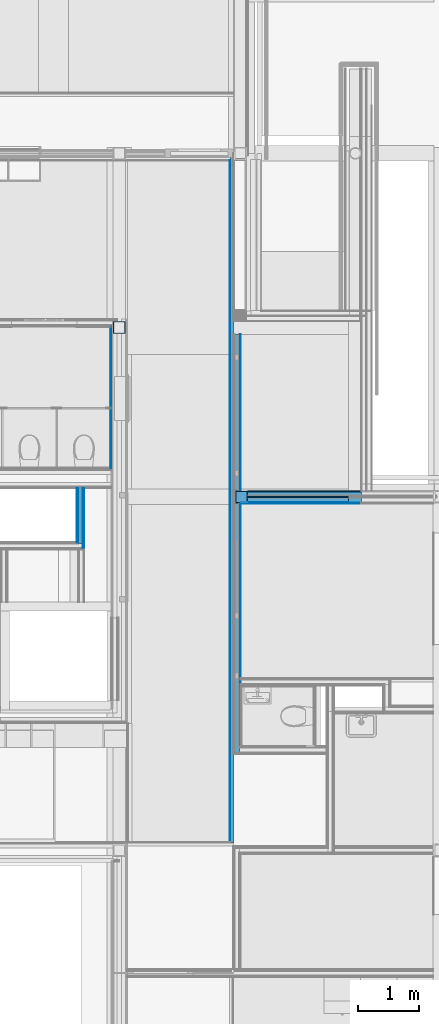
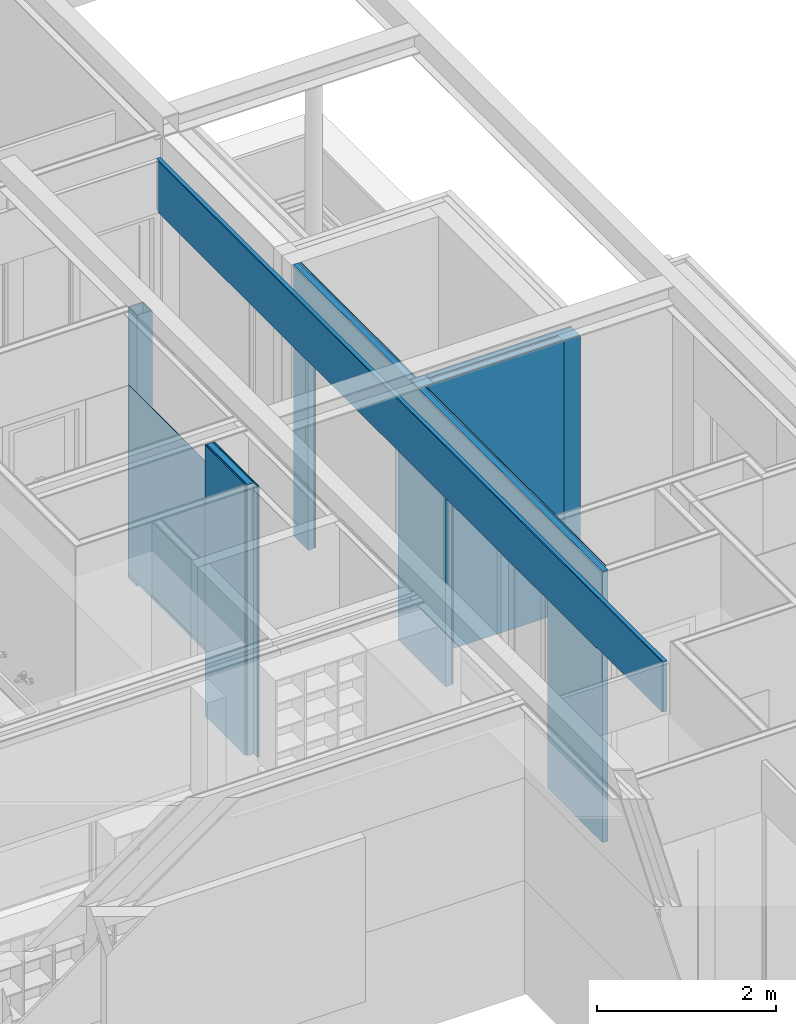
# One storey, part 87 of 137: 22 building element parts, 3 openings, 8 elements without a shape of their own.
"""IFC2X3 building model written with IfcOpenShell, lengths in millimetres."""

from ifc_helpers import new_model, entity, si_unit, converted_unit, derived_unit, money_unit, direction, frame, origin_with_axes, place, context, subcontext, project, spatial, faceted_brep, material, type_object, element, aggregate, save


model = new_model("IFC2X3")

# Units and contexts
model_context = context("Model", 3, precision=0.01, world=origin_with_axes(), true_north=direction((0.0, 1.0)))
body_context = subcontext(model_context, "Body", "Model", "MODEL_VIEW")
ifc_project = project(units=[si_unit("LENGTHUNIT", "METRE", prefix="MILLI"), si_unit("AREAUNIT", "SQUARE_METRE"), si_unit("VOLUMEUNIT", "CUBIC_METRE"), converted_unit("PLANEANGLEUNIT", "DEGREE", entity("IfcPlaneAngleMeasure", 0.0174532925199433), si_unit("PLANEANGLEUNIT", "RADIAN"), dimensions=[0, 0, 0, 0, 0, 0, 0]), money_unit("EUR"), converted_unit("TIMEUNIT", "Year", entity("IfcTimeMeasure", 31556926.0), si_unit("TIMEUNIT", "SECOND"), dimensions=[0, 0, 1, 0, 0, 0, 0]), si_unit("MASSUNIT", "GRAM", prefix="KILO"), si_unit("THERMODYNAMICTEMPERATUREUNIT", "DEGREE_CELSIUS"), si_unit("LUMINOUSINTENSITYUNIT", "LUMEN"), si_unit("ENERGYUNIT", "JOULE", prefix="MEGA"), derived_unit("THERMALCONDUCTANCEUNIT", [(si_unit("POWERUNIT", "WATT"), 1), (si_unit("LENGTHUNIT", "METRE"), -1), (si_unit("THERMODYNAMICTEMPERATUREUNIT", "KELVIN"), -1)]), derived_unit("SPECIFICHEATCAPACITYUNIT", [(si_unit("ENERGYUNIT", "JOULE"), 1), (si_unit("MASSUNIT", "GRAM", prefix="KILO"), -1), (si_unit("THERMODYNAMICTEMPERATUREUNIT", "KELVIN"), -1)]), derived_unit("MASSDENSITYUNIT", [(si_unit("MASSUNIT", "GRAM", prefix="KILO"), 1), (si_unit("VOLUMEUNIT", "CUBIC_METRE"), -1)])], contexts=[model_context])

# Site, building, storey
site_placement = place(None, origin_with_axes())
site = spatial("IfcSite", under=ifc_project, at=site_placement, Name="Site", CompositionType="ELEMENT")
building_placement = place(site_placement, origin_with_axes())
building = spatial("IfcBuilding", under=site, at=building_placement, Name="Naam gebouw", CompositionType="ELEMENT")
storey_placement = place(building_placement, frame((0.0, 0.0, 3960.0), z_axis=(0.0, 0.0, 1.0), x_axis=(1.0, 0.0, 0.0)))
storey = spatial("IfcBuildingStorey", under=building, at=storey_placement, Name="1e verdieping", CompositionType="ELEMENT", Elevation=3960.0)

# Proxy, openings, building element parts
building_element_proxy_type_1 = type_object("IfcBuildingElementProxyType", Name="22 Metal stud 125 oregon pine 125", PredefinedType="NOTDEFINED")
proxy_1_placement = place(storey_placement, frame((26386.00000000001, 19336.00039292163, -100.0000000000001), z_axis=(0.0, 0.0, 1.0), x_axis=(0.0, -1.0, 0.0)))
proxy_1 = element("IfcBuildingElementProxy", 1, at=proxy_1_placement, inside=storey, type_object=building_element_proxy_type_1, Name="_Wand-x")
opening_1_placement = place(proxy_1_placement, frame((4006.002611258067, 0.0, 100.0000000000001), z_axis=(0.0, 0.0, 1.0), x_axis=(1.0, 0.0, 0.0)))
element("IfcOpeningElement", 2, at=opening_1_placement, cuts=proxy_1, Name="_B.01", context=body_context, shape_type="Brep", body=[
    faceted_brep([(600.0000000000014, 50.00000000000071, 2600.0), (-600.0000000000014, 50.00000000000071, 2600.0), (-600.0000000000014, -1.000000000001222, 2600.0), (600.0000000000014, -1.000000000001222, 2600.0), (600.0000000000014, 126.0000000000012, 2600.0), (-600.0000000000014, 126.0000000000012, 2600.0), (-600.0000000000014, 50.00000000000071, -100.0000000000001), (-600.0000000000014, -1.000000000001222, -100.0000000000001), (600.0000000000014, -1.000000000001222, -100.0000000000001), (600.0000000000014, 50.00000000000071, -100.0000000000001), (600.0000000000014, 126.0000000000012, -100.0000000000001), (-600.0000000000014, 126.0000000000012, -100.0000000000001)], [[[0, 1, 2, 3]], [[1, 0, 4, 5]], [[1, 6, 7, 2]], [[2, 7, 8, 3]], [[9, 0, 3, 8]], [[0, 9, 10, 4]], [[4, 10, 11, 5]], [[6, 1, 5, 11]], [[6, 9, 8, 7]], [[9, 6, 11, 10]]]),
])
opening_2_placement = place(proxy_1_placement, frame((1337.502611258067, 0.0, 100.0000000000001), z_axis=(0.0, 0.0, 1.0), x_axis=(1.0, 0.0, 0.0)))
element("IfcOpeningElement", 3, at=opening_2_placement, cuts=proxy_1, Name="_03.03", context=body_context, shape_type="Brep", body=[
    faceted_brep([(1004.999999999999, 126.0000000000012, 2600.0), (1004.999999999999, 126.0000000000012, -100.0000000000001), (-1004.999999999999, 126.0000000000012, -100.0000000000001), (-1004.999999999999, 126.0000000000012, 2600.0), (1004.999999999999, -1.000000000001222, 2600.0), (1004.999999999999, -1.000000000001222, -100.0000000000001), (-1004.999999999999, -1.000000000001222, -100.0000000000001), (-1004.999999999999, -1.000000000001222, 2600.0)], [[[0, 1, 2, 3]], [[4, 5, 1, 0]], [[5, 6, 2, 1]], [[6, 7, 3, 2]], [[7, 4, 0, 3]], [[6, 5, 4, 7]]]),
])
opening_3_placement = place(proxy_1_placement, frame((5146.002611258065, 0.0, 100.0000000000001), z_axis=(0.0, 0.0, 1.0), x_axis=(1.0, 0.0, 0.0)))
element("IfcOpeningElement", 4, at=opening_3_placement, cuts=proxy_1, Name="_01.02", context=body_context, shape_type="Brep", body=[
    faceted_brep([(539.9999999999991, 126.0000000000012, 2600.0), (539.9999999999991, 126.0000000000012, -100.0000000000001), (-539.9999999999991, 126.0000000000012, -100.0000000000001), (-539.9999999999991, 126.0000000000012, 2600.0), (539.9999999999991, -1.000000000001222, 2600.0), (539.9999999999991, -1.000000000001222, -100.0000000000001), (-539.9999999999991, -1.000000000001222, -100.0000000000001), (-539.9999999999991, -1.000000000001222, 2600.0)], [[[0, 1, 2, 3]], [[4, 5, 1, 0]], [[5, 6, 2, 1]], [[6, 7, 3, 2]], [[7, 4, 0, 3]], [[6, 5, 4, 7]]]),
])
ifc_material_1 = material(Name="ALG - LICHTE SCHEIDINGSWAND")
building_element_part_1_placement = place(proxy_1_placement, origin_with_axes())
building_element_part_1 = element("IfcBuildingElementPart", 5, at=building_element_part_1_placement, material=ifc_material_1, Name="ALG - LICHTE SCHEIDINGSWAND", context=body_context, shape_type="Brep", body=[
    faceted_brep([(5686.002611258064, 100.0000000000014, 0.0), (5686.002611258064, 100.0000000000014, 2700.0), (4606.002611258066, 100.0000000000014, 2700.0), (3406.002611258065, 100.0000000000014, 2700.0), (3406.002611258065, 100.0000000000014, 0.0), (2786.00261125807, 100.0000000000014, 0.0), (2786.00261125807, 100.0000000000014, 3699.999999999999), (6911.008738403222, 99.99999999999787, 3700.0), (6911.008738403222, 99.99999999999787, 0.0), (5686.002611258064, 24.99999999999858, 0.0), (5686.002611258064, 24.99999999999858, 2700.0), (4606.002611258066, 24.99999999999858, 2700.0), (4606.002611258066, 50.00000000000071, 2700.0), (3406.002611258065, 50.00000000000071, 2700.0), (3406.002611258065, 50.00000000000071, 0.0), (3406.002611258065, 24.99999999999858, 0.0), (2342.502611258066, 24.99999999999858, 0.0), (2342.502611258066, 100.0000000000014, 0.0), (2586.002611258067, 100.0000000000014, 0.0), (2586.002611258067, 33.99999999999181, 0.0), (2786.00261125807, 33.99999999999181, 0.0), (2786.00261125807, 33.99999999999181, 3699.999999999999), (0.0, 24.99999999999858, 3700.0), (6911.008788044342, 24.99999999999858, 3700.0), (2586.002611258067, 33.99999999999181, 3699.999999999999), (2586.002611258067, 100.0000000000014, 3699.999999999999), (0.0, 100.0000000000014, 3700.0), (6911.008788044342, 24.99999999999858, 0.0), (0.0, 24.99999999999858, 0.0), (332.502611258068, 24.99999999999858, 0.0), (332.502611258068, 24.99999999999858, 2700.0), (2342.502611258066, 24.99999999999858, 2700.0), (3406.002611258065, 24.99999999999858, 2700.0), (2342.502611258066, 100.0000000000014, 2700.0), (332.502611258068, 100.0000000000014, 2700.0), (332.502611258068, 100.0000000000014, 0.0), (0.0, 100.0000000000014, 0.0)], [[[0, 1, 2, 3, 4, 5, 6, 7, 8]], [[1, 0, 9, 10]], [[2, 1, 10, 11, 12, 13, 3]], [[13, 14, 4, 3]], [[4, 14, 15, 16, 17, 18, 19, 20, 5]], [[21, 6, 5, 20]], [[22, 23, 7, 6, 21, 24, 25, 26]], [[27, 8, 7, 23]], [[9, 0, 8, 27]], [[10, 9, 27, 23, 22, 28, 29, 30, 31, 16, 15, 32, 11]], [[12, 11, 32, 13]], [[32, 15, 14, 13]], [[17, 16, 31, 33]], [[26, 25, 18, 17, 33, 34, 35, 36]], [[18, 25, 24, 19]], [[24, 21, 20, 19]], [[26, 36, 28, 22]], [[29, 28, 36, 35]], [[34, 30, 29, 35]], [[33, 31, 30, 34]]]),
])
ifc_material_2 = material(Name="Gipsplaat")
building_element_part_2_placement = place(proxy_1_placement, origin_with_axes())
building_element_part_2 = element("IfcBuildingElementPart", 6, at=building_element_part_2_placement, material=ifc_material_2, Name="Gipsplaat", context=body_context, shape_type="Brep", body=[
    faceted_brep([(5686.002611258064, 125.0, 0.0), (5686.002611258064, 125.0, 2700.0), (4606.002611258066, 125.0, 2700.0), (3406.002611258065, 125.0, 2700.0), (3406.002611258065, 125.0, 0.0), (2786.00261125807, 125.0, 0.0), (2786.00261125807, 125.0, 3699.999999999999), (6823.508721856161, 125.0, 3700.0), (6823.508721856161, 125.0, 0.0), (5686.002611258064, 112.5000000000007, 0.0), (5686.002611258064, 112.5000000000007, 2700.0), (4606.002611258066, 112.5000000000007, 2700.0), (3406.002611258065, 112.5000000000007, 2700.0), (3406.002611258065, 112.5000000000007, 0.0), (2786.00261125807, 112.5000000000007, 0.0), (2786.00261125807, 112.5000000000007, 3699.999999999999), (6823.508730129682, 112.5000000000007, 3700.0), (6823.508730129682, 112.5000000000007, 0.0)], [[[0, 1, 2, 3, 4, 5, 6, 7, 8]], [[1, 0, 9, 10]], [[2, 1, 10, 11, 12, 3]], [[3, 12, 13, 4]], [[13, 14, 5, 4]], [[5, 14, 15, 6]], [[16, 7, 6, 15]], [[7, 16, 17, 8]], [[9, 0, 8, 17]], [[10, 9, 17, 16, 15, 14, 13, 12, 11]]]),
    faceted_brep([(2342.502611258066, 125.0, 0.0), (2342.502611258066, 125.0, 2700.0), (332.502611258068, 125.0, 2700.0), (332.502611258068, 125.0, 0.0), (0.0, 125.0, 0.0), (0.0, 125.0, 3700.0), (2586.002611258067, 125.0, 3699.999999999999), (2586.002611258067, 125.0, 0.0), (2342.502611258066, 112.5000000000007, 0.0), (2342.502611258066, 112.5000000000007, 2700.0), (332.502611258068, 112.5000000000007, 2700.0), (332.502611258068, 112.5000000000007, 0.0), (0.0, 112.5000000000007, 0.0), (0.0, 112.5000000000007, 3700.0), (2586.002611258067, 112.5000000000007, 3699.999999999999), (2586.002611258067, 112.5000000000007, 0.0)], [[[0, 1, 2, 3, 4, 5, 6, 7]], [[1, 0, 8, 9]], [[2, 1, 9, 10]], [[3, 2, 10, 11]], [[3, 11, 12, 4]], [[4, 12, 13, 5]], [[6, 5, 13, 14]], [[6, 14, 15, 7]], [[8, 0, 7, 15]], [[9, 8, 15, 14, 13, 12, 11, 10]]]),
])
aggregate(proxy_1, [building_element_part_1, building_element_part_2])

# Proxy, building element parts
building_element_proxy_type_2 = type_object("IfcBuildingElementProxyType", Name="22 Metal stud 125 gips 125", PredefinedType="NOTDEFINED")
proxy_2_placement = place(storey_placement, frame((28286.00002397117, 16535.99778166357, -100.0000000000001), z_axis=(0.0, 0.0, 1.0), x_axis=(-1.0, 0.0, 0.0)))
proxy_2 = element("IfcBuildingElementProxy", 7, at=proxy_2_placement, inside=storey, type_object=building_element_proxy_type_2, Name="_Wand-x")
building_element_part_3_placement = place(proxy_2_placement, origin_with_axes())
building_element_part_3 = element("IfcBuildingElementPart", 8, at=building_element_part_3_placement, material=ifc_material_2, Name="Gipsplaat", context=body_context, shape_type="Brep", body=[
    faceted_brep([(1666.000023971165, -24.99999999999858, 0.0), (1666.000023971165, -24.99999999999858, 3699.999999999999), (0.0, -24.99999999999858, 3700.0), (0.0, -24.99999999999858, 0.0), (1666.000023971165, -13.99999999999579, 3699.999999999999), (1666.000023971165, -13.99999999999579, 0.0), (1775.00002397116, -13.99999999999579, 3699.999999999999), (1775.00002397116, -12.49999999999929, 3700.0), (0.0, -12.49999999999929, 3700.0), (0.0, -12.49999999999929, 0.0), (1775.00002397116, -12.49999999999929, 0.0), (1775.00002397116, -13.99999999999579, 0.0)], [[[0, 1, 2, 3]], [[4, 1, 0, 5]], [[4, 6, 7, 8, 2, 1]], [[3, 2, 8, 9]], [[5, 0, 3, 9, 10, 11]], [[6, 4, 5, 11]], [[6, 11, 10, 7]], [[7, 10, 9, 8]]]),
])
building_element_part_4_placement = place(proxy_2_placement, origin_with_axes())
building_element_part_4 = element("IfcBuildingElementPart", 9, at=building_element_part_4_placement, material=ifc_material_1, Name="ALG - LICHTE SCHEIDINGSWAND", context=body_context, shape_type="Brep", body=[
    faceted_brep([(1666.000023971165, -100.0000000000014, 3680.000000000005), (1666.000023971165, -100.0000000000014, 3699.999999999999), (1641.259764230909, -100.0000000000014, 3700.0), (1666.000023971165, -24.99999999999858, 3699.999999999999), (1666.000023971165, -98.99999999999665, 3680.000000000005), (1666.000023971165, -98.99999999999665, 3584.560364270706), (1666.000023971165, -100.0000000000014, 3584.560364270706), (1666.000023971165, -100.0000000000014, 0.0), (1666.000023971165, -24.99999999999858, 0.0), (0.0, -24.99999999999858, 3700.0), (0.0, -100.0000000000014, 3700.0), (1605.014701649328, -100.0000000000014, 3700.0), (1605.014701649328, -98.99999999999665, 3700.0), (1641.259764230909, -98.99999999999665, 3700.0), (0.0, -98.99999999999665, 1714.575969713), (0.0, -98.99999999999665, 1523.696698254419), (0.0, -100.0000000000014, 1523.696698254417), (0.0, -100.0000000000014, 0.0), (0.0, -24.99999999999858, 0.0), (0.0, -100.0000000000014, 1714.575969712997)], [[[0, 1, 2]], [[3, 1, 0, 4, 5, 6, 7, 8]], [[1, 3, 9, 10, 11, 12, 13, 2]], [[4, 0, 2, 13]], [[5, 4, 13, 12, 14, 15]], [[6, 5, 15, 16]], [[7, 6, 16, 17]], [[8, 7, 17, 18]], [[3, 8, 18, 9]], [[16, 15, 14, 19, 10, 9, 18, 17]], [[10, 19, 11]], [[12, 11, 19, 14]]]),
])
building_element_part_5_placement = place(proxy_2_placement, origin_with_axes())
building_element_part_5 = element("IfcBuildingElementPart", 10, at=building_element_part_5_placement, material=ifc_material_2, Name="Gipsplaat", context=body_context, shape_type="Brep", body=[
    faceted_brep([(1775.00002397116, 0.0, 3700.0), (0.0, 0.0, 3700.0), (0.0, -12.49999999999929, 3700.0), (1775.00002397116, -12.49999999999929, 3700.0), (1775.00002397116, 0.0, 0.0), (0.0, 0.0, 0.0), (0.0, -12.49999999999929, 0.0), (1775.00002397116, -12.49999999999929, 0.0)], [[[0, 1, 2, 3]], [[4, 5, 1, 0]], [[2, 1, 5, 6]], [[3, 2, 6, 7]], [[3, 7, 4, 0]], [[7, 6, 5, 4]]]),
])
building_element_part_6_placement = place(proxy_2_placement, origin_with_axes())
building_element_part_6 = element("IfcBuildingElementPart", 11, at=building_element_part_6_placement, material=ifc_material_2, Name="Gipsplaat", context=body_context, shape_type="Brep", body=[
    faceted_brep([(1666.000023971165, -112.5000000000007, 0.0), (1666.000023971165, -112.5000000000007, 3584.560364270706), (0.0, -112.5000000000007, 1523.696698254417), (0.0, -112.5000000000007, 0.0), (1666.000023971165, -100.0000000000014, 3584.560364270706), (1666.000023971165, -100.0000000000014, 0.0), (0.0, -100.0000000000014, 1523.696698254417), (0.0, -100.0000000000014, 0.0)], [[[0, 1, 2, 3]], [[4, 1, 0, 5]], [[1, 4, 6, 2]], [[3, 2, 6, 7]], [[5, 0, 3, 7]], [[4, 5, 7, 6]]]),
    faceted_brep([(1666.000023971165, -112.5000000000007, 3680.000000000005), (1666.000023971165, -112.5000000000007, 3699.999999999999), (1641.259764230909, -112.5000000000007, 3700.0), (1666.000023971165, -100.0000000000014, 3699.999999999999), (1666.000023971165, -100.0000000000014, 3680.000000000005), (1641.259764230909, -100.0000000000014, 3700.0)], [[[0, 1, 2]], [[3, 1, 0, 4]], [[1, 3, 5, 2]], [[4, 0, 2, 5]], [[3, 4, 5]]]),
    faceted_brep([(0.0, -100.0000000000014, 1714.575969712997), (0.0, -112.5000000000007, 1714.575969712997), (0.0, -112.5000000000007, 3700.0), (0.0, -100.0000000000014, 3700.0), (1605.014701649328, -112.5000000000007, 3700.0), (1605.014701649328, -100.0000000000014, 3700.0)], [[[0, 1, 2, 3]], [[4, 1, 0, 5]], [[1, 4, 2]], [[4, 5, 3, 2]], [[5, 0, 3]]]),
])
building_element_part_7_placement = place(proxy_2_placement, origin_with_axes())
building_element_part_7 = element("IfcBuildingElementPart", 12, at=building_element_part_7_placement, material=ifc_material_2, Name="Gipsplaat", context=body_context, shape_type="Brep", body=[
    faceted_brep([(1666.000023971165, -125.0, 0.0), (1666.000023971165, -125.0, 3699.999999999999), (0.0, -125.0, 3700.0), (0.0, -125.0, 2026.303301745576), (1638.06146177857, -125.0, 0.0), (1666.000023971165, -112.5000000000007, 3699.999999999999), (1666.000023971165, -112.5000000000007, 0.0), (1666.000023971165, -112.5000000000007, 3584.560364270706), (1666.000023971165, -113.9999999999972, 3584.560364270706), (1666.000023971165, -113.9999999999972, 3680.000000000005), (1666.000023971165, -112.5000000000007, 3680.000000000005), (1641.259764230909, -112.5000000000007, 3700.0), (1641.259764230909, -113.9999999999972, 3700.0), (1605.014701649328, -113.9999999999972, 3700.0), (1605.014701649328, -112.5000000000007, 3700.0), (0.0, -112.5000000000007, 3700.0), (0.0, -113.9999999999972, 1714.575969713), (0.0, -113.9999999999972, 1523.696698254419), (0.0, -112.5000000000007, 1523.696698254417), (0.0, -112.5000000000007, 0.0), (0.0, -125.0, 0.0), (0.0, -125.0, 1835.424030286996), (0.0, -114.0000000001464, 1835.424030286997), (0.0, -114.0000000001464, 2026.303301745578), (0.0, -112.5000000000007, 1714.575969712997), (126.0000239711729, -113.9999999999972, 1870.439635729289), (203.1533252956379, -113.9999999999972, 1774.999999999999), (1638.06146177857, -114.0000000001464, 0.0), (1483.75485912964, -114.0000000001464, 0.0), (1483.754859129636, -125.0, 0.0), (126.0000239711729, -113.9999999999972, 1679.560364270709), (48.84672264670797, -113.9999999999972, 1774.999999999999)], [[[0, 1, 2, 3, 4]], [[5, 1, 0, 6, 7, 8, 9, 10]], [[1, 5, 11, 12, 13, 14, 15, 2]], [[16, 17, 18, 19, 20, 21, 22, 23, 3, 2, 15, 24]], [[23, 25, 26, 27, 4, 3]], [[6, 0, 4, 27, 28, 29, 20, 19]], [[7, 6, 19, 18]], [[8, 7, 18, 17, 30, 26]], [[9, 8, 26, 25, 13, 12]], [[10, 9, 12, 11]], [[5, 10, 11]], [[31, 16, 24, 14, 13, 25]], [[15, 14, 24]], [[30, 17, 16, 31]], [[20, 29, 21]], [[28, 30, 31, 22, 21, 29]], [[22, 31, 25, 23]], [[27, 26, 30, 28]]]),
])
aggregate(proxy_2, [building_element_part_3, building_element_part_4, building_element_part_5, building_element_part_6, building_element_part_7])

proxy_3_placement = place(storey_placement, frame((23799.99903999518, 16789.99778166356, -100.0000000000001), z_axis=(0.0, 0.0, 1.0), x_axis=(0.0, -1.0, 0.0)))
proxy_3 = element("IfcBuildingElementProxy", 13, at=proxy_3_placement, inside=storey, type_object=building_element_proxy_type_2, Name="_Wand-x")
building_element_part_8_placement = place(proxy_3_placement, origin_with_axes())
building_element_part_8 = element("IfcBuildingElementPart", 14, at=building_element_part_8_placement, material=ifc_material_2, Name="Gipsplaat", context=body_context, shape_type="Brep", body=[
    faceted_brep([(990.0000000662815, 100.0000000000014, 0.0), (0.0, 100.0000000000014, 0.0), (0.0, 112.5000000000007, 0.0), (990.0000000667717, 112.5000000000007, 0.0), (990.0000000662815, 100.0000000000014, 3700.0), (0.0, 100.0000000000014, 3700.0), (0.0, 112.5000000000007, 3700.0), (990.0000000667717, 112.5000000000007, 3700.0)], [[[0, 1, 2, 3]], [[4, 5, 1, 0]], [[2, 1, 5, 6]], [[3, 2, 6, 7]], [[3, 7, 4, 0]], [[7, 6, 5, 4]]]),
])
building_element_part_9_placement = place(proxy_3_placement, origin_with_axes())
building_element_part_9 = element("IfcBuildingElementPart", 15, at=building_element_part_9_placement, material=ifc_material_2, Name="Gipsplaat", context=body_context, shape_type="Brep", body=[
    faceted_brep([(1002.500000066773, 112.5000000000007, 0.0), (0.0, 112.5000000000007, 0.0), (0.0, 125.0, 0.0), (1002.500000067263, 125.0, 0.0), (1002.500000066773, 112.5000000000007, 3700.0), (0.0, 112.5000000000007, 3700.0), (0.0, 125.0, 3700.0), (1002.500000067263, 125.0, 3700.0)], [[[0, 1, 2, 3]], [[4, 5, 1, 0]], [[2, 1, 5, 6]], [[3, 2, 6, 7]], [[3, 7, 4, 0]], [[7, 6, 5, 4]]]),
])
building_element_part_10_placement = place(proxy_3_placement, origin_with_axes())
building_element_part_10 = element("IfcBuildingElementPart", 16, at=building_element_part_10_placement, material=ifc_material_1, Name="ALG - LICHTE SCHEIDINGSWAND", context=body_context, shape_type="Brep", body=[
    faceted_brep([(915.0000000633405, 24.99999999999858, 0.0), (0.0, 24.99999999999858, 0.0), (0.0, 100.0000000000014, 0.0), (915.0000000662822, 100.0000000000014, 0.0), (915.0000000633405, 24.99999999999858, 3700.0), (0.0, 24.99999999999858, 3700.0), (0.0, 100.0000000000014, 3700.0), (915.0000000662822, 100.0000000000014, 3700.0)], [[[0, 1, 2, 3]], [[4, 5, 1, 0]], [[2, 1, 5, 6]], [[3, 2, 6, 7]], [[3, 7, 4, 0]], [[7, 6, 5, 4]]]),
])
building_element_part_11_placement = place(proxy_3_placement, origin_with_axes())
building_element_part_11 = element("IfcBuildingElementPart", 17, at=building_element_part_11_placement, material=ifc_material_2, Name="Gipsplaat", context=body_context, shape_type="Brep", body=[
    faceted_brep([(890.0000000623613, 0.0, 0.0), (0.0, 0.0, 0.0), (0.0, 12.49999999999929, 0.0), (890.0000000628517, 12.49999999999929, 0.0), (890.0000000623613, 0.0, 3700.0), (0.0, 0.0, 3700.0), (0.0, 12.49999999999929, 3700.0), (890.0000000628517, 12.49999999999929, 3700.0)], [[[0, 1, 2, 3]], [[4, 5, 1, 0]], [[2, 1, 5, 6]], [[3, 2, 6, 7]], [[3, 7, 4, 0]], [[7, 6, 5, 4]]]),
])
building_element_part_12_placement = place(proxy_3_placement, origin_with_axes())
building_element_part_12 = element("IfcBuildingElementPart", 18, at=building_element_part_12_placement, material=ifc_material_2, Name="Gipsplaat", context=body_context, shape_type="Brep", body=[
    faceted_brep([(902.5000000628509, 12.49999999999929, 0.0), (0.0, 12.49999999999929, 0.0), (0.0, 24.99999999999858, 0.0), (902.5000000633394, 24.99999999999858, 0.0), (902.5000000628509, 12.49999999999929, 3700.0), (0.0, 12.49999999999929, 3700.0), (0.0, 24.99999999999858, 3700.0), (902.5000000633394, 24.99999999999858, 3700.0)], [[[0, 1, 2, 3]], [[4, 5, 1, 0]], [[2, 1, 5, 6]], [[3, 2, 6, 7]], [[3, 7, 4, 0]], [[7, 6, 5, 4]]]),
])
aggregate(proxy_3, [building_element_part_8, building_element_part_9, building_element_part_10, building_element_part_11, building_element_part_12])

# Column, building element part
column_type = type_object("IfcColumnType", Name="200X200X10 200 x 200", PredefinedType="COLUMN")
column_1_placement = place(storey_placement, frame((24499.98347325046, 19450.00039292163, -100.0000000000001), z_axis=(0.0, 0.0, 1.0), x_axis=(1.0, 0.0, 0.0)))
column_1 = element("IfcColumn", 19, at=column_1_placement, inside=storey, type_object=column_type, Name="28_Kolom-x", ObjectType="COLUMN")
ifc_material_3 = material(Name="Metaal - Staal C")
building_element_part_13_placement = place(column_1_placement, origin_with_axes())
building_element_part_13 = element("IfcBuildingElementPart", 20, at=building_element_part_13_placement, material=ifc_material_3, Name="Metaal - Staal C", context=body_context, shape_type="Brep", body=[
    faceted_brep([(-100.0000000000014, -100.0000000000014, 0.0), (100.0000000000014, -100.0000000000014, 0.0), (100.0000000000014, -100.0000000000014, 3699.999999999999), (-100.0000000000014, -100.0000000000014, 3699.999999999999), (-100.0000000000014, 100.0000000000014, 0.0), (100.0000000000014, 100.0000000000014, 0.0), (-89.99999999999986, -89.99999999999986, 0.0), (89.99999999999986, -89.99999999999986, 0.0), (89.99999999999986, 89.99999999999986, 0.0), (-89.99999999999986, 89.99999999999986, 0.0), (100.0000000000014, 100.0000000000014, 3699.999999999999), (-100.0000000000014, 100.0000000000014, 3699.999999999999), (-89.99999999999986, -89.99999999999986, 3699.999999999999), (-89.99999999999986, 89.99999999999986, 3699.999999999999), (89.99999999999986, 89.99999999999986, 3699.999999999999), (89.99999999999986, -89.99999999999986, 3699.999999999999)], [[[0, 1, 2, 3]], [[0, 4, 5, 1], [6, 7, 8, 9]], [[1, 5, 10, 2]], [[3, 2, 10, 11], [12, 13, 14, 15]], [[4, 0, 3, 11]], [[5, 4, 11, 10]], [[7, 6, 12, 15]], [[8, 7, 15, 14]], [[9, 8, 14, 13]], [[6, 9, 13, 12]]]),
])
aggregate(column_1, [building_element_part_13])

# Proxy, building element parts
building_element_proxy_type_3 = type_object("IfcBuildingElementProxyType", Name="22 Metal stud 62.5 plafond 63", PredefinedType="NOTDEFINED")
proxy_4_placement = place(storey_placement, frame((26323.50000000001, 10945.00011055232, 2600.0), z_axis=(0.0, 0.0, 1.0), x_axis=(0.0, 1.0, 0.0)))
proxy_4 = element("IfcBuildingElementProxy", 21, at=proxy_4_placement, inside=storey, type_object=building_element_proxy_type_3, Name="_Wand-x")
building_element_part_14_placement = place(proxy_4_placement, origin_with_axes())
building_element_part_14 = element("IfcBuildingElementPart", 22, at=building_element_part_14_placement, material=ifc_material_2, Name="Gipsplaat", context=body_context, shape_type="Brep", body=[
    faceted_brep([(1454.991477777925, -12.49999999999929, 11.99999999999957), (1454.991477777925, -12.49999999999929, 0.0), (11267.47610351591, -12.49999999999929, 0.0), (11267.47610351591, -12.49999999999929, 700.0000000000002), (0.0, -12.49999999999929, 700.0000000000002), (0.0, -12.49999999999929, 11.99999999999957), (1454.991477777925, 0.0, 11.99999999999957), (1454.991477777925, 0.0, 0.0), (11267.47610351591, 0.0, 0.0), (11267.47610351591, 0.0, 700.0000000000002), (0.0, 0.0, 700.0000000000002), (-2.990132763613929e-05, 0.0, 11.99999999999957)], [[[0, 1, 2, 3, 4, 5]], [[1, 0, 6, 7]], [[1, 7, 8, 2]], [[9, 3, 2, 8]], [[3, 9, 10, 4]], [[11, 5, 4, 10]], [[0, 5, 11, 6]], [[6, 11, 10, 9, 8, 7]]]),
])
building_element_part_15_placement = place(proxy_4_placement, origin_with_axes())
building_element_part_15 = element("IfcBuildingElementPart", 23, at=building_element_part_15_placement, material=ifc_material_1, Name="ALG - LICHTE SCHEIDINGSWAND", context=body_context, shape_type="Brep", body=[
    faceted_brep([(1454.991477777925, -62.5, 11.99999999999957), (1454.991477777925, -62.5, 0.0), (11317.47610351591, -62.5, 0.0), (11317.47610351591, -62.5, 700.0000000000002), (-12.49999999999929, -62.5, 700.0000000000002), (-12.49999999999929, -62.5, 11.99999999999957), (1454.991477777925, -12.49999999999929, 11.99999999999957), (1454.991477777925, -12.49999999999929, 0.0), (11317.47610351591, -12.49999999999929, 0.0), (11317.47610351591, -12.49999999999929, 700.0000000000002), (-12.49999999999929, -12.49999999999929, 700.0000000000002), (-12.49999999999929, -12.49999999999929, 11.99999999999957)], [[[0, 1, 2, 3, 4, 5]], [[1, 0, 6, 7]], [[1, 7, 8, 2]], [[9, 3, 2, 8]], [[3, 9, 10, 4]], [[11, 5, 4, 10]], [[0, 5, 11, 6]], [[6, 11, 10, 9, 8, 7]]]),
])
aggregate(proxy_4, [building_element_part_14, building_element_part_15])

# Column, building element parts
column_2_placement = place(storey_placement, frame((26520.0, 16649.99778166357, -100.0000000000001), z_axis=(0.0, 0.0, 1.0), x_axis=(1.0, 0.0, 0.0)))
column_2 = element("IfcColumn", 24, at=column_2_placement, inside=storey, type_object=column_type, Name="28_Kolom-x", ObjectType="COLUMN")
ifc_material_4 = material(Name="Beton gewapend C")
building_element_part_16_placement = place(column_2_placement, origin_with_axes())
building_element_part_16 = element("IfcBuildingElementPart", 25, at=building_element_part_16_placement, material=ifc_material_4, Name="Beton gewapend C", context=body_context, shape_type="Brep", body=[
    faceted_brep([(-89.99999999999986, -89.99999999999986, 3699.999999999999), (-89.99999999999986, -89.99999999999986, 0.0), (89.99999999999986, -89.99999999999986, 0.0), (89.99999999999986, -89.99999999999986, 3699.999999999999), (-89.99999999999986, 89.99999999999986, 3699.999999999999), (-89.99999999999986, 89.99999999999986, 0.0), (89.99999999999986, 89.99999999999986, 0.0), (89.99999999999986, 89.99999999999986, 3699.999999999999)], [[[0, 1, 2, 3]], [[4, 5, 1, 0]], [[2, 1, 5, 6]], [[3, 2, 6, 7]], [[4, 0, 3, 7]], [[7, 6, 5, 4]]]),
])
building_element_part_17_placement = place(column_2_placement, origin_with_axes())
building_element_part_17 = element("IfcBuildingElementPart", 26, at=building_element_part_17_placement, material=ifc_material_3, Name="Metaal - Staal C", context=body_context, shape_type="Brep", body=[
    faceted_brep([(-100.0000000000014, -100.0000000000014, 0.0), (100.0000000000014, -100.0000000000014, 0.0), (100.0000000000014, -100.0000000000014, 3699.999999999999), (-100.0000000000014, -100.0000000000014, 3699.999999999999), (-100.0000000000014, 100.0000000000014, 0.0), (100.0000000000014, 100.0000000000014, 0.0), (-89.99999999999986, -89.99999999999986, 0.0), (89.99999999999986, -89.99999999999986, 0.0), (89.99999999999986, 89.99999999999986, 0.0), (-89.99999999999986, 89.99999999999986, 0.0), (100.0000000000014, 100.0000000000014, 3699.999999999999), (-100.0000000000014, 100.0000000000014, 3699.999999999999), (-89.99999999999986, -89.99999999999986, 3699.999999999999), (-89.99999999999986, 89.99999999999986, 3699.999999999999), (89.99999999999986, 89.99999999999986, 3699.999999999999), (89.99999999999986, -89.99999999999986, 3699.999999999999)], [[[0, 1, 2, 3]], [[0, 4, 5, 1], [6, 7, 8, 9]], [[1, 5, 10, 2]], [[3, 2, 10, 11], [12, 13, 14, 15]], [[4, 0, 3, 11]], [[5, 4, 11, 10]], [[7, 6, 12, 15]], [[8, 7, 15, 14]], [[9, 8, 14, 13]], [[6, 9, 13, 12]]]),
])
aggregate(column_2, [building_element_part_16, building_element_part_17])

# Proxy, building element parts
building_element_proxy_type_4 = type_object("IfcBuildingElementProxyType", Name="42 Tegelwerk 2600+ 12 x 2600", PredefinedType="NOTDEFINED")
proxy_5_placement = place(storey_placement, frame((24344.99903999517, 17134.99778166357, 0.0), z_axis=(0.0, 0.0, 1.0), x_axis=(0.0, 1.0, 0.0)))
proxy_5 = element("IfcBuildingElementProxy", 27, at=proxy_5_placement, inside=storey, type_object=building_element_proxy_type_4, Name="_Wand-x")
ifc_material_5 = material(Name="48 vloeivloer Bolidt")
building_element_part_18_placement = place(proxy_5_placement, origin_with_axes())
building_element_part_18 = element("IfcBuildingElementPart", 28, at=building_element_part_18_placement, material=ifc_material_5, Name="48 vloeivloer Bolidt", context=body_context, shape_type="Brep", body=[
    faceted_brep([(-14.99999850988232, -14.99999850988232, 50.00000596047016), (-14.99999850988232, -19.99998360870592, 50.00000596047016), (2325.002037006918, -19.99998360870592, 50.00000596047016), (2325.002037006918, -14.99999850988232, 50.00000596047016), (-14.99999850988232, -19.99998360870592, 0.0), (-14.99999850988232, -14.99999850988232, 0.0), (2325.002037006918, -19.99998360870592, 0.0), (2325.002037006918, -14.99999850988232, 0.0)], [[[0, 1, 2, 3]], [[4, 1, 0, 5]], [[1, 4, 6, 2]], [[3, 2, 6, 7]], [[5, 0, 3, 7]], [[4, 5, 7, 6]]]),
])
ifc_material_6 = material(Name="21 STO lijmlaag")
building_element_part_19_placement = place(proxy_5_placement, origin_with_axes())
building_element_part_19 = element("IfcBuildingElementPart", 29, at=building_element_part_19_placement, material=ifc_material_6, Name="21 STO lijmlaag", context=body_context, shape_type="Brep", body=[
    faceted_brep([(-13.00000447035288, -13.00000447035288, 2600.0), (-13.00000447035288, -19.99999552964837, 2600.0), (2325.002037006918, -19.99999552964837, 2600.0), (2325.002037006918, -13.00000447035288, 2600.0), (-13.00000447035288, -19.99999552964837, 49.99999999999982), (-13.00000447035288, -13.00000447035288, 49.99999999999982), (-13.00000447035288, -14.99999850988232, 49.99999999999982), (2325.002037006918, -19.99999552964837, 50.00000596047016), (2325.002037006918, -13.00000447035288, 50.00000596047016), (2325.002037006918, -14.99999850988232, 50.00000596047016)], [[[0, 1, 2, 3]], [[4, 1, 0, 5, 6]], [[1, 4, 7, 2]], [[8, 3, 2, 7, 9]], [[5, 0, 3, 8]], [[6, 5, 8, 9]], [[4, 6, 9, 7]]]),
])
aggregate(proxy_5, [building_element_part_18, building_element_part_19])

# Wall, building element parts
wall_type = type_object("IfcWallType", Name="22 HSB wand 214 214", PredefinedType="NOTDEFINED")
wall_placement = place(storey_placement, frame((28500.00002397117, 16749.99778166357, -100.0000000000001), z_axis=(0.0, 0.0, 1.0), x_axis=(-1.0, 0.0, 0.0)))
wall = element("IfcWall", 30, at=wall_placement, inside=storey, type_object=wall_type, Name="21_Wand-x")
ifc_material_7 = material(Name="ALG - ISOLATIE UITVULLING")
building_element_part_20_placement = place(wall_placement, origin_with_axes())
building_element_part_20 = element("IfcBuildingElementPart", 31, at=building_element_part_20_placement, material=ifc_material_7, Name="ALG - ISOLATIE UITVULLING", context=body_context, shape_type="Brep", body=[
    faceted_brep([(1880.000023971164, 115.000000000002, 3680.000000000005), (1880.000023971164, 100.0000000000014, 3680.000000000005), (1855.259764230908, 100.0000000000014, 3700.0), (1855.259764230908, 115.000000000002, 3700.0), (1880.000023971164, 200.0000000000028, 3699.999999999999), (1880.000023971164, 18.00000000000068, 3699.999999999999), (1880.000023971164, 18.00000000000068, 0.0), (1880.000023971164, 200.0000000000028, 0.0), (1880.000023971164, 100.0000000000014, 3584.560364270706), (1880.000023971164, 115.000000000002, 3584.560364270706), (417.1533252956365, 100.0000000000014, 1774.999999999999), (340.0000239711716, 100.0000000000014, 1870.439635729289), (1819.014701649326, 100.0000000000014, 3700.0), (1988.000023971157, 200.0000000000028, 3699.999999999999), (1988.000023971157, 202.0000000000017, 3700.0), (0.0, 202.0000000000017, 3700.0), (0.0, 18.00000000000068, 3700.0), (1819.014701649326, 115.000000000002, 3700.0), (0.0, 115.000000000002, 1449.855190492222), (0.0, 115.000000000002, 1258.975919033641), (0.0, 18.00000000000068, 0.0), (0.0, 202.0000000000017, 0.0), (1988.000023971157, 201.9999999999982, 0.0), (1988.000023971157, 200.0000000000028, 0.0), (1852.061461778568, 84.99999999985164, 0.0), (1852.061461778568, 99.99999999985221, 0.0), (1697.754859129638, 99.99999999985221, 0.0), (1697.754859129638, 84.99999999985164, 0.0), (0.0, 100.0000000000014, 1258.975919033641), (340.0000239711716, 100.0000000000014, 1679.560364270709), (0.0, 99.99999999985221, 2291.024080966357), (0.0, 84.99999999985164, 2291.024080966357), (262.8467226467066, 100.0000000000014, 1774.999999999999), (0.0, 100.0000000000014, 1449.855190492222), (0.0, 84.99999999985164, 2100.144809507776), (0.0, 99.99999999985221, 2100.144809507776)], [[[0, 1, 2, 3]], [[4, 5, 6, 7], [8, 1, 0, 9]], [[1, 8, 10, 11, 12, 2]], [[4, 13, 14, 15, 16, 5], [17, 3, 2, 12]], [[9, 0, 3, 17, 18, 19]], [[6, 5, 16, 20]], [[7, 6, 20, 21, 22, 23], [24, 25, 26, 27]], [[13, 4, 7, 23]], [[8, 9, 19, 28, 29, 10]], [[30, 11, 10, 25, 24, 31]], [[32, 33, 18, 17, 12, 11]], [[13, 23, 22, 14]], [[22, 21, 15, 14]], [[21, 20, 16, 15], [34, 35, 30, 31], [28, 19, 18, 33]], [[25, 10, 29, 26]], [[26, 29, 32, 35, 34, 27]], [[27, 34, 31, 24]], [[29, 28, 33, 32]], [[35, 32, 11, 30]]]),
])
ifc_material_8 = material(Name="Steen - Kalkzandsteen C")
building_element_part_21_placement = place(wall_placement, origin_with_axes())
building_element_part_21 = element("IfcBuildingElementPart", 32, at=building_element_part_21_placement, material=ifc_material_8, Name="Steen - Kalkzandsteen C", context=body_context, shape_type="Brep", body=[
    faceted_brep([(1988.000023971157, 201.9999999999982, 0.0), (1988.000023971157, 202.0000000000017, 3700.0), (0.0, 202.0000000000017, 3700.0), (0.0, 202.0000000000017, 0.0), (1988.000023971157, 213.9999999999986, 0.0), (1988.000023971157, 213.9999999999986, 3700.0), (0.0, 213.9999999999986, 3700.0), (0.0, 213.9999999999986, 0.0)], [[[0, 1, 2, 3]], [[4, 5, 1, 0]], [[5, 6, 2, 1]], [[3, 2, 6, 7]], [[3, 7, 4, 0]], [[7, 6, 5, 4]]]),
])
building_element_part_22_placement = place(wall_placement, origin_with_axes())
building_element_part_22 = element("IfcBuildingElementPart", 33, at=building_element_part_22_placement, material=ifc_material_2, Name="Gipsplaat", context=body_context, shape_type="Brep", body=[
    faceted_brep([(1880.000023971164, 0.0, 0.0), (1880.000023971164, 0.0, 3699.999999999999), (0.0, 0.0, 3700.0), (0.0, 0.0, 0.0), (1880.000023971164, 18.00000000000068, 3699.999999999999), (1880.000023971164, 18.00000000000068, 0.0), (0.0, 18.00000000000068, 3700.0), (0.0, 18.00000000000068, 0.0)], [[[0, 1, 2, 3]], [[4, 1, 0, 5]], [[1, 4, 6, 2]], [[7, 3, 2, 6]], [[5, 0, 3, 7]], [[4, 5, 7, 6]]]),
])
aggregate(wall, [building_element_part_20, building_element_part_21, building_element_part_22])

save(model, "model.ifc")
